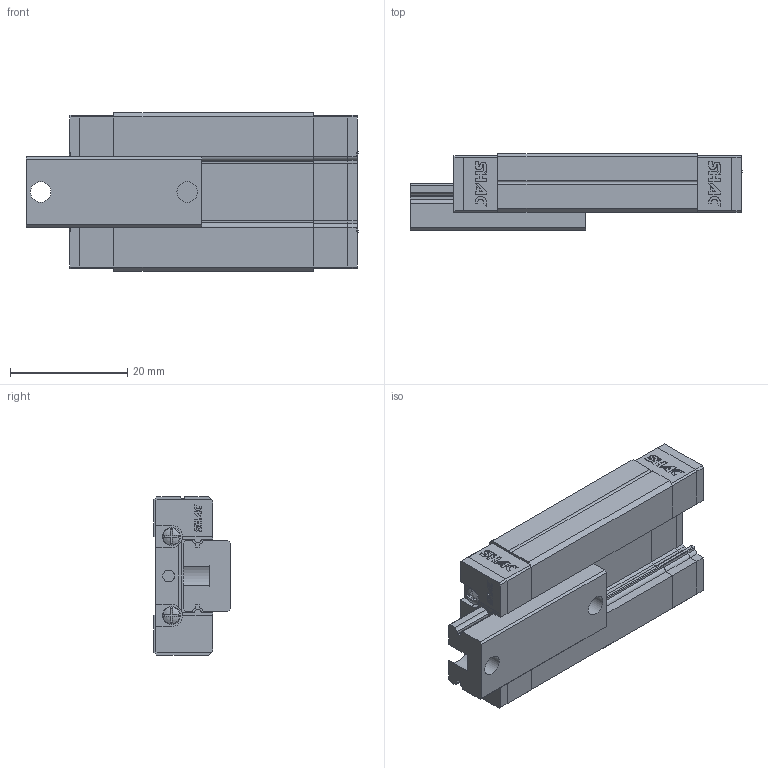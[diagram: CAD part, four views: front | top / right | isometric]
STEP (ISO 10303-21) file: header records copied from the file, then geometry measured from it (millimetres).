
FILE_DESCRIPTION( ( 'STEP AP214' ), '1' );
FILE_NAME( 'F:/品牌/SHAC 台湾鼎翰传动科技有限公司/3D滑块/GMN12H1R30ZFC+U_-2.5_2.5_1_.stp', '2025-04-21T22:55:12', ( 'License CC BY-ND 4.0' ), ( 'CADENAS' ), ' ', 'PARTsolutions', ' ' );
FILE_SCHEMA( ( 'AUTOMOTIVE_DESIGN { 1 0 10303 214 1 1 1 1 }' ) );
Length unit declared in the file: millimetre
Products named in the file (5): GMN12H1R30ZFC+U/-2.5/2.5(1); _GMN12R30-2.5/2.5(1)_R; _GMN12H_S; _GMN12_C; _GMN12_P
Assembly tree (6 placements, depth 2):
  GMN12H1R30ZFC+U/-2.5/2.5(1)
    _GMN12R30-2.5/2.5(1)_R
    _GMN12H_S
    _GMN12_C  x2
    _GMN12_P  x2
Bounding box: 56.62 x 13 x 27 mm (x, y, z)
Volume: 12421.8 mm3; surface area: 8007.7 mm2
Topology: 6 solids, 6 shells, 653 faces, 1815 edges, 1206 vertices
Faces by surface type: plane 524, cylinder 113, cone 8, sphere 4, torus 4
Full cylindrical faces by diameter (mm): 2 x2, 2.459 x4, 3.04 x4, 3.5 x2
Entity records: 15482 total; most frequent: CARTESIAN_POINT 2170, ORIENTED_EDGE 2112, DIRECTION 2034, EDGE_CURVE 1056, LINE 874, VECTOR 874, VERTEX_POINT 716, AXIS2_PLACEMENT_3D 580
